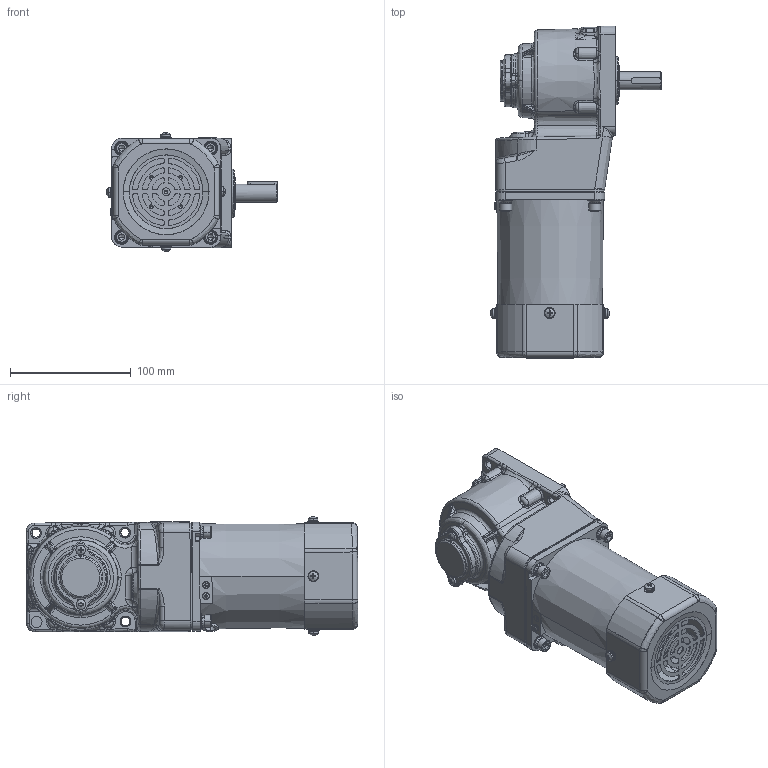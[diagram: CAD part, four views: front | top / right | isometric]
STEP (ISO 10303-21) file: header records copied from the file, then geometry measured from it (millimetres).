
FILE_DESCRIPTION (( 'STEP AP203' ), '1' );
FILE_NAME ('5IK60RGU-CF(5GU3RT-180RT)ÐÂ.STEP', '2022-02-24T02:36:08', ( 'PC' ), ( 'Microsoft' ), 'SwSTEP 2.0', 'SolidWorks 2014', '' );
FILE_SCHEMA (( 'CONFIG_CONTROL_DESIGN' ));
Length unit declared in the file: millimetre
Products named in the file (9): 90RT妗陑怀堤傷裔; hexagon socket head cap screws gb_GB_FASTENER_SCREWS_HSHCS M5X12-N; cross recessed pan head screws gb_GB_CROSS_SCREWS_TYPE1 M4X6-6  H type-N; 5IK60RGU-CF(5GU3RT-180RT); 5IK60RGU-CF(5GU3RT-180RT)陔; zd-5gu-50rc-504-001m#眊极禱矗 2021-12-07 - 萵掛; 90妗陑怀堤粣; 90壔裔; ZD-5GU50RC-505-003綴傷裔
Assembly tree (12 placements, depth 2):
  5IK60RGU-CF(5GU3RT-180RT)陔
    zd-5gu-50rc-504-001m#眊极禱矗 2021-12-07 - 萵掛
    90妗陑怀堤粣
    90壔裔
    ZD-5GU50RC-505-003綴傷裔
    90RT妗陑怀堤傷裔
    hexagon socket head cap screws gb_GB_FASTENER_SCREWS_HSHCS M5X12-N  x4
    cross recessed pan head screws gb_GB_CROSS_SCREWS_TYPE1 M4X6-6  H type-N  x2
    5IK60RGU-CF(5GU3RT-180RT)
Bounding box: 141.25 x 274.46 x 98.12 mm (x, y, z)
Volume: 807510 mm3; surface area: 209577.1 mm2
Topology: 35 solids, 45 shells, 2227 faces, 5492 edges, 3311 vertices
Faces by surface type: plane 672, cylinder 559, bspline 483, cone 415, torus 92, sphere 6
Entity records: 89548 total; most frequent: CARTESIAN_POINT 42031, ORIENTED_EDGE 10296, DIRECTION 8979, EDGE_CURVE 5149, AXIS2_PLACEMENT_3D 3566, VERTEX_POINT 3171, EDGE_LOOP 2277, ADVANCED_FACE 2128
